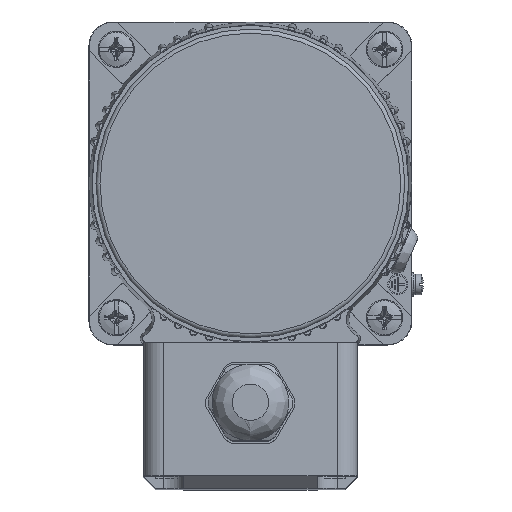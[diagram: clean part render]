
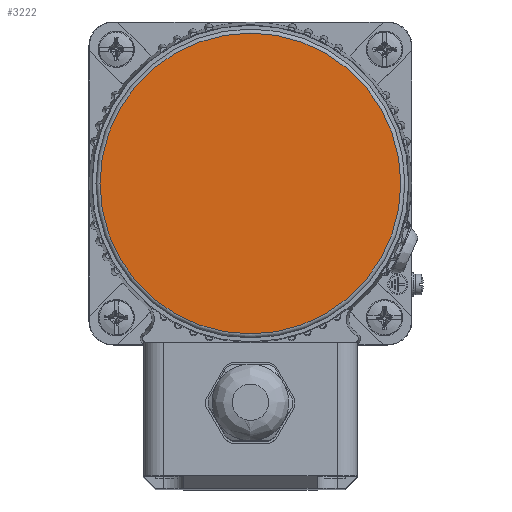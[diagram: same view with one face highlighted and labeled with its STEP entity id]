
A CAD part, left-side view. The second image highlights one B-rep face of the part: STEP entity #3222.
In plain terms, the highlighted planar face has unit normal (-1, 0, 0).
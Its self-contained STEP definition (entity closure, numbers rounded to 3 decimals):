
#2358=FACE_OUTER_BOUND('',#6311,.T.);
#3222=ADVANCED_FACE('',(#2358),#3947,.F.);
#3947=PLANE('',#16712);
#6311=EDGE_LOOP('',(#9007));
#9007=ORIENTED_EDGE('',*,*,#13645,.T.);
#11961=VERTEX_POINT('',#22672);
#13645=EDGE_CURVE('',#11961,#11961,#15665,.T.);
#15665=CIRCLE('',#16434,37.25);
#16434=AXIS2_PLACEMENT_3D('',#22671,#18299,#18300);
#16712=AXIS2_PLACEMENT_3D('',#30696,#18932,#18933);
#18299=DIRECTION('',(-1.,0.,0.));
#18300=DIRECTION('',(0.,0.,-1.));
#18932=DIRECTION('',(1.,0.,0.));
#18933=DIRECTION('',(0.,0.,-1.));
#22671=CARTESIAN_POINT('',(-86.,40.,40.));
#22672=CARTESIAN_POINT('',(-86.,40.,2.75));
#30696=CARTESIAN_POINT('',(-86.,40.,78.25));
